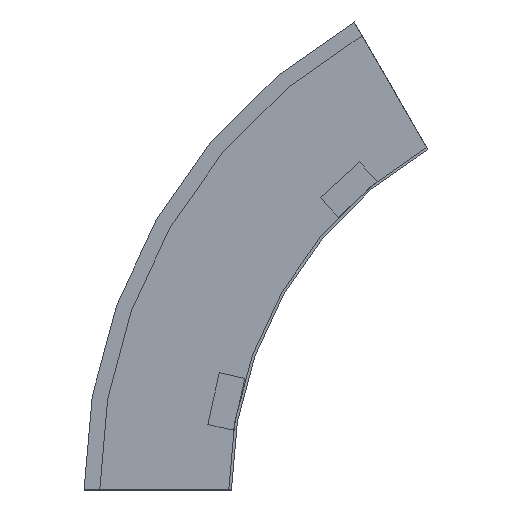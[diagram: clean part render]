
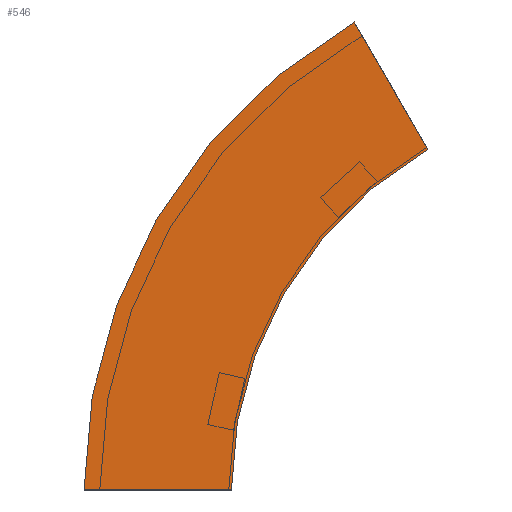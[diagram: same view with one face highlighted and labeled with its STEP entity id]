
A CAD part, left-side view. The second image highlights one B-rep face of the part: STEP entity #546.
In plain terms, the highlighted planar face has unit normal (-1, 0, 0) as drawn and (1, 0, 0) by its records, which use the part's own axes.
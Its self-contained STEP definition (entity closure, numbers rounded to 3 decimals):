
#10 = VERTEX_POINT ( 'NONE', #38 ) ;
#38 = CARTESIAN_POINT ( 'NONE',  ( 0., -150., 259.808 ) ) ;
#48 = CARTESIAN_POINT ( 'NONE',  ( 0., -300., 0. ) ) ;
#75 = VERTEX_POINT ( 'NONE', #161 ) ;
#76 = VERTEX_POINT ( 'NONE', #328 ) ;
#104 = DIRECTION ( 'NONE',  ( 1., 0., 0. ) ) ;
#139 = AXIS2_PLACEMENT_3D ( 'NONE', #478, #365, #210 ) ;
#143 = LINE ( 'NONE', #504, #155 ) ;
#155 = VECTOR ( 'NONE', #193, 1000. ) ;
#161 = CARTESIAN_POINT ( 'NONE',  ( 0., 112.5, 0. ) ) ;
#193 = DIRECTION ( 'NONE',  ( 0., 1., 0. ) ) ;
#210 = DIRECTION ( 'NONE',  ( 0., 0., -1. ) ) ;
#211 = VERTEX_POINT ( 'NONE', #271 ) ;
#227 = LINE ( 'NONE', #551, #499 ) ;
#232 = DIRECTION ( 'NONE',  ( 0., 0.5, 0.866 ) ) ;
#242 = CIRCLE ( 'NONE', #279, 300. ) ;
#245 = ORIENTED_EDGE ( 'NONE', *, *, #469, .F. ) ;
#249 = ORIENTED_EDGE ( 'NONE', *, *, #322, .T. ) ;
#256 = EDGE_LOOP ( 'NONE', ( #481, #245, #329, #249 ) ) ;
#270 = DIRECTION ( 'NONE',  ( 1., 0., 0. ) ) ;
#271 = CARTESIAN_POINT ( 'NONE',  ( 0., -93.75, 357.235 ) ) ;
#279 = AXIS2_PLACEMENT_3D ( 'NONE', #514, #104, #370 ) ;
#302 = AXIS2_PLACEMENT_3D ( 'NONE', #48, #270, #454 ) ;
#322 = EDGE_CURVE ( 'NONE', #76, #75, #143, .T. ) ;
#328 = CARTESIAN_POINT ( 'NONE',  ( 0., 0., 0. ) ) ;
#329 = ORIENTED_EDGE ( 'NONE', *, *, #569, .F. ) ;
#365 = DIRECTION ( 'NONE',  ( 1., 0., 0. ) ) ;
#370 = DIRECTION ( 'NONE',  ( 0., 1., 0. ) ) ;
#421 = FACE_OUTER_BOUND ( 'NONE', #256, .T. ) ;
#454 = DIRECTION ( 'NONE',  ( 0., 1., 0. ) ) ;
#469 = EDGE_CURVE ( 'NONE', #10, #211, #227, .T. ) ;
#478 = CARTESIAN_POINT ( 'NONE',  ( 0., 0., 0. ) ) ;
#481 = ORIENTED_EDGE ( 'NONE', *, *, #528, .T. ) ;
#499 = VECTOR ( 'NONE', #232, 1000. ) ;
#504 = CARTESIAN_POINT ( 'NONE',  ( 0., 0., 0. ) ) ;
#514 = CARTESIAN_POINT ( 'NONE',  ( 0., -300., 0. ) ) ;
#528 = EDGE_CURVE ( 'NONE', #75, #211, #568, .T. ) ;
#546 = ADVANCED_FACE ( 'NONE', ( #421 ), #563, .T. ) ;
#551 = CARTESIAN_POINT ( 'NONE',  ( 0., -150., 259.808 ) ) ;
#563 = PLANE ( 'NONE',  #139 ) ;
#568 = CIRCLE ( 'NONE', #302, 412.5 ) ;
#569 = EDGE_CURVE ( 'NONE', #76, #10, #242, .T. ) ;
